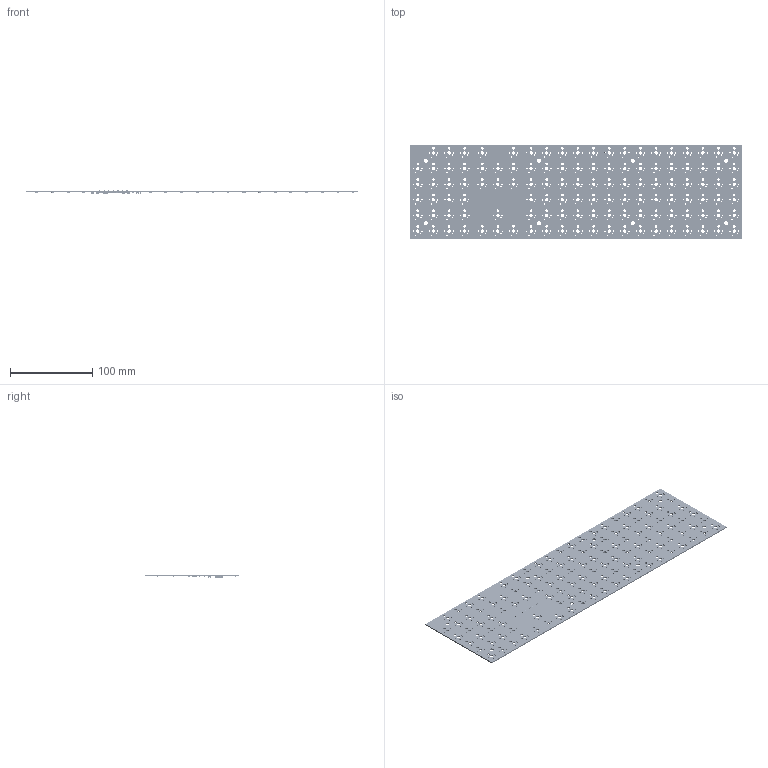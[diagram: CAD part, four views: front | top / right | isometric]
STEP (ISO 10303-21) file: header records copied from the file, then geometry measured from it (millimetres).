
FILE_DESCRIPTION(('KiCad electronic assembly'),'2;1');
FILE_NAME('beef_keeb_v1.step','2021-08-24T17:45:17',('An Author'),( 'A Company'),'Open CASCADE STEP processor 6.9', 'KiCad to STEP converter','Unknown');
FILE_SCHEMA(('AUTOMOTIVE_DESIGN { 1 0 10303 214 1 1 1 1 }'));
Length unit declared in the file: millimetre
Products named in the file (10): Open CASCADE STEP translator 6.9 1; D_SOD-123; SOLID; C_1206_3216Metric; PinHeader_1x40_P1.00mm_Horizontal; R_1206_3216Metric; COMPOUND
Assembly tree (152 placements, depth 3):
  Open CASCADE STEP translator 6.9 1
    D_SOD-123  x119
      SOLID
    C_1206_3216Metric  x20
      SOLID
    PinHeader_1x40_P1.00mm_Horizontal
      SOLID
    R_1206_3216Metric  x7
      SOLID
    COMPOUND
Bounding box: 404.81 x 114.3 x 4.1 mm (x, y, z)
Volume: 69005.6 mm3; surface area: 98890.9 mm2
Topology: 148 solids, 148 shells, 10567 faces, 25464 edges, 15432 vertices
Faces by surface type: plane 5423, bspline 3094, cylinder 2050
Full cylindrical faces by diameter (mm): 0.5 x40, 1.53 x238, 1.7 x238, 3.3 x119, 4 x119, 5 x8
Entity records: 147435 total; most frequent: CARTESIAN_POINT 30834, DIRECTION 20070, LINE 12442, VECTOR 12442, ORIENTED_EDGE 10560, PCURVE 10560, DEFINITIONAL_REPRESENTATION 10560, EDGE_CURVE 5280
